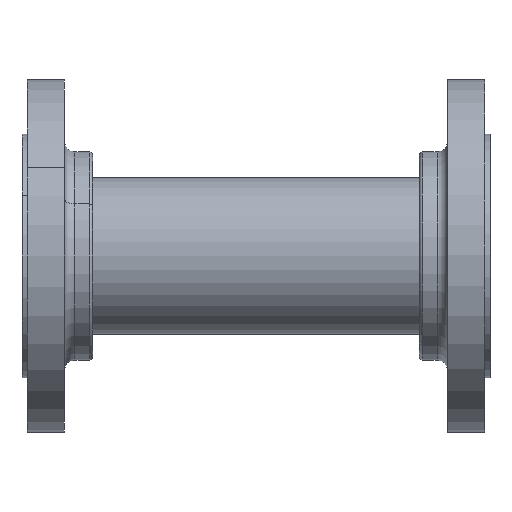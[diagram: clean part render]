
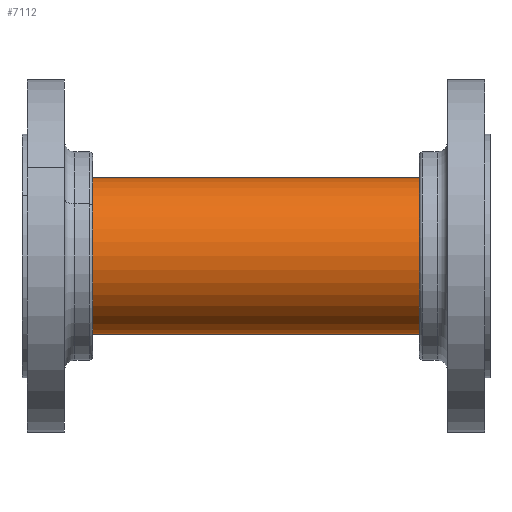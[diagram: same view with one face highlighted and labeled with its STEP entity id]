
A CAD part, front view. The second image highlights one B-rep face of the part: STEP entity #7112.
In plain terms, the highlighted cylindrical face has radius 44.45 mm (diameter 88.9 mm), a partial arc.
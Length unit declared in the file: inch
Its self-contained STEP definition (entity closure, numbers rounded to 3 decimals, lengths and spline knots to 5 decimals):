
#1912 = AXIS2_PLACEMENT_3D ( 'NONE', #6750, #23058, #28146 ) ;
#3536 = CYLINDRICAL_SURFACE ( 'NONE', #15541, 1.75 ) ;
#5039 = VERTEX_POINT ( 'NONE', #19994 ) ;
#5947 = DIRECTION ( 'NONE',  ( 0., 0., -1. ) ) ;
#6060 = VECTOR ( 'NONE', #8942, 39.37008 ) ;
#6750 = CARTESIAN_POINT ( 'NONE',  ( 4.74409, 0., 0. ) ) ;
#7112 = ADVANCED_FACE ( 'NONE', ( #30222 ), #3536, .T. ) ;
#7257 = LINE ( 'NONE', #13023, #25072 ) ;
#7455 = EDGE_CURVE ( 'NONE', #32375, #5039, #30521, .T. ) ;
#7816 = CARTESIAN_POINT ( 'NONE',  ( 4.74409, 0., -1.75 ) ) ;
#8079 = EDGE_CURVE ( 'NONE', #18415, #9366, #7257, .T. ) ;
#8574 = DIRECTION ( 'NONE',  ( 1., 0., 0. ) ) ;
#8942 = DIRECTION ( 'NONE',  ( -1., 0., 0. ) ) ;
#9317 = DIRECTION ( 'NONE',  ( 0., 0., 1. ) ) ;
#9366 = VERTEX_POINT ( 'NONE', #17316 ) ;
#10063 = DIRECTION ( 'NONE',  ( -1., 0., 0. ) ) ;
#10342 = CARTESIAN_POINT ( 'NONE',  ( 4.74409, 0., 1.75 ) ) ;
#13023 = CARTESIAN_POINT ( 'NONE',  ( 4.74409, 0., 1.75 ) ) ;
#14026 = CARTESIAN_POINT ( 'NONE',  ( 4.74409, 0., -1.75 ) ) ;
#14234 = CARTESIAN_POINT ( 'NONE',  ( 4.74409, 0., 0. ) ) ;
#15541 = AXIS2_PLACEMENT_3D ( 'NONE', #14234, #28090, #9317 ) ;
#17316 = CARTESIAN_POINT ( 'NONE',  ( -4.66535, 0., 1.75 ) ) ;
#18415 = VERTEX_POINT ( 'NONE', #10342 ) ;
#19994 = CARTESIAN_POINT ( 'NONE',  ( -4.66535, 0., -1.75 ) ) ;
#20955 = CIRCLE ( 'NONE', #1912, 1.75 ) ;
#22096 = CARTESIAN_POINT ( 'NONE',  ( -4.66535, 0., 0. ) ) ;
#23058 = DIRECTION ( 'NONE',  ( 1., 0., 0. ) ) ;
#24100 = ORIENTED_EDGE ( 'NONE', *, *, #26728, .F. ) ;
#24220 = ORIENTED_EDGE ( 'NONE', *, *, #7455, .F. ) ;
#24653 = EDGE_LOOP ( 'NONE', ( #24220, #24100, #26536, #26380 ) ) ;
#25072 = VECTOR ( 'NONE', #10063, 39.37008 ) ;
#26380 = ORIENTED_EDGE ( 'NONE', *, *, #29849, .T. ) ;
#26536 = ORIENTED_EDGE ( 'NONE', *, *, #8079, .T. ) ;
#26728 = EDGE_CURVE ( 'NONE', #18415, #32375, #20955, .T. ) ;
#28090 = DIRECTION ( 'NONE',  ( -1., 0., 0. ) ) ;
#28146 = DIRECTION ( 'NONE',  ( 0., 0., -1. ) ) ;
#29849 = EDGE_CURVE ( 'NONE', #9366, #5039, #30596, .T. ) ;
#30222 = FACE_OUTER_BOUND ( 'NONE', #24653, .T. ) ;
#30521 = LINE ( 'NONE', #14026, #6060 ) ;
#30596 = CIRCLE ( 'NONE', #34577, 1.75 ) ;
#32375 = VERTEX_POINT ( 'NONE', #7816 ) ;
#34577 = AXIS2_PLACEMENT_3D ( 'NONE', #22096, #8574, #5947 ) ;
